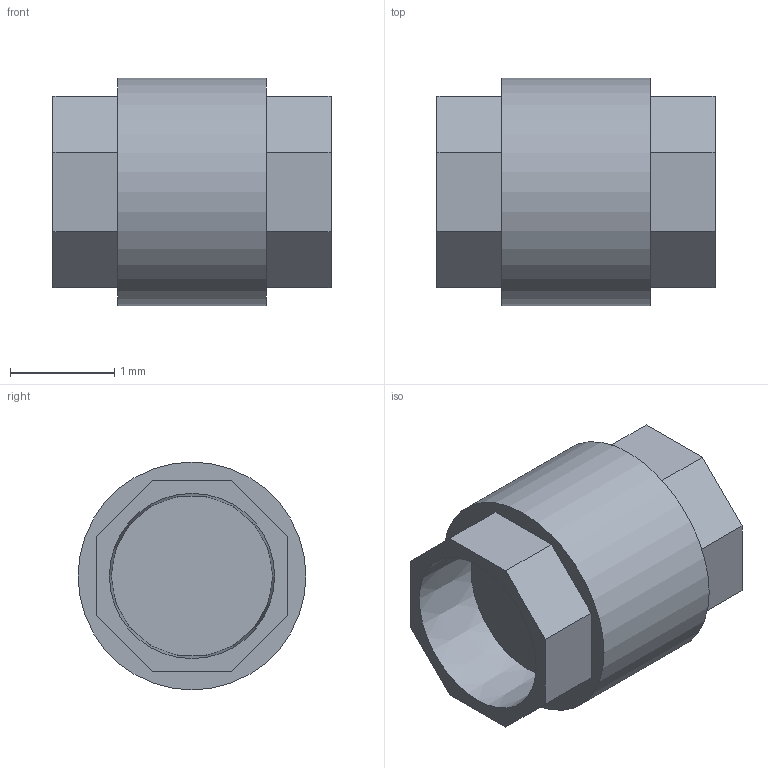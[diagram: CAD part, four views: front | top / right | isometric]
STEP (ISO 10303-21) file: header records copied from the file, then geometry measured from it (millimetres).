
FILE_DESCRIPTION(('Open CASCADE Model'),'2;1');
FILE_NAME('Open CASCADE Shape Model','2021-09-28T16:13:38',('Author'),( 'Open CASCADE'),'Open CASCADE STEP processor 7.3','Open CASCADE 7.3' ,'Unknown');
FILE_SCHEMA(('AUTOMOTIVE_DESIGN { 1 0 10303 214 1 1 1 1 }'));
Length unit declared in the file: millimetre
Products named in the file (1): Open CASCADE STEP translator 7.3 1
Bounding box: 2.67 x 2.19 x 2.19 mm (x, y, z)
Volume: 6.2 mm3; surface area: 31.3 mm2
Topology: 1 solids, 1 shells, 25 faces, 57 edges, 38 vertices
Faces by surface type: plane 22, cone 2, cylinder 1
Full cylindrical faces by diameter (mm): 2.185 x1
Entity records: 1457 total; most frequent: CARTESIAN_POINT 262, DIRECTION 222, LINE 156, VECTOR 156, ORIENTED_EDGE 114, PCURVE 114, DEFINITIONAL_REPRESENTATION 114, EDGE_CURVE 57
